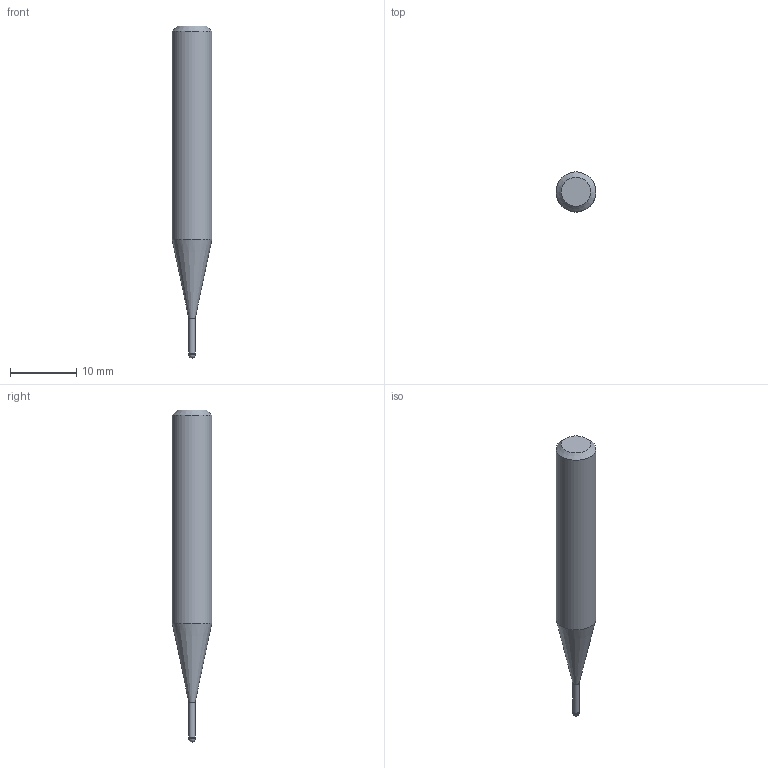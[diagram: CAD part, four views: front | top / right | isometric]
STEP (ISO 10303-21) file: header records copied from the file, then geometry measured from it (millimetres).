
FILE_DESCRIPTION((''),'2;1');
FILE_NAME('C:\Users\nsx150\AppData\Local\Temp\Mastercam 2021\3SYKECWX22\TEMP.step','2021-04-22T10:02:13',(''),(''),'STEP Write','Mastercam 2021 ... CNC Software, Inc.','');
FILE_SCHEMA(('AUTOMOTIVE_DESIGN'));
Length unit declared in the file: millimetre
Products named in the file (1): None
Bounding box: 6 x 6 x 50 mm (x, y, z)
Volume: 1039.4 mm3; surface area: 776.2 mm2
Topology: 2 solids, 2 shells, 9 faces, 14 edges, 8 vertices
Faces by surface type: plane 3, cylinder 3, cone 2, sphere 1
Full cylindrical faces by diameter (mm): 0.95 x1, 1 x1, 6 x1
Entity records: 211 total; most frequent: DIRECTION 36, CARTESIAN_POINT 25, AXIS2_PLACEMENT_3D 18, ORIENTED_EDGE 14, EDGE_LOOP 14, STYLED_ITEM 12, ADVANCED_FACE 9, FACE_BOUND 8
